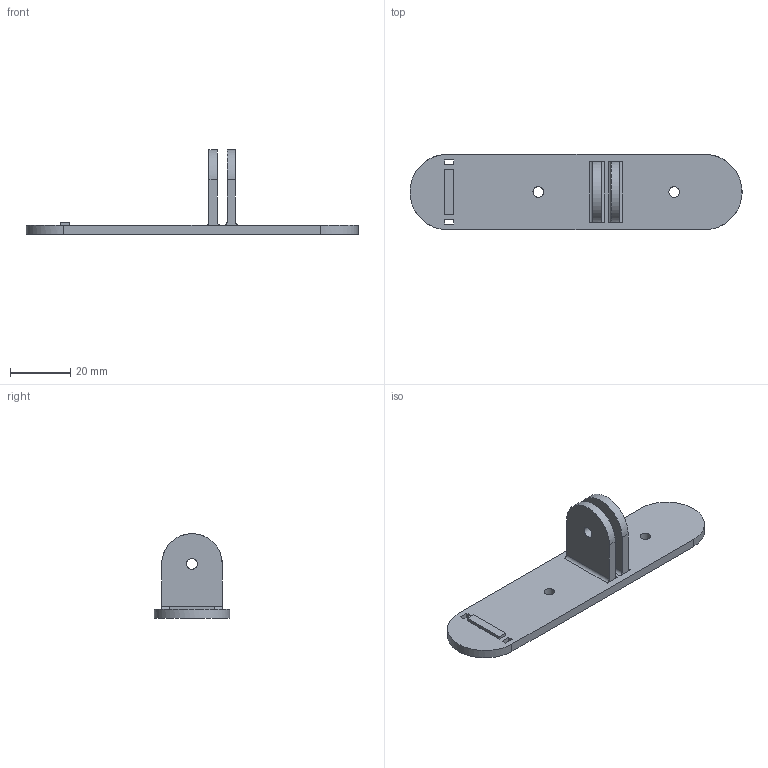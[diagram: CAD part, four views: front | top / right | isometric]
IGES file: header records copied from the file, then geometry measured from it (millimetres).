
Global section: file name: d435_mount_horizontal v6; native system: unknown; preprocessor: unknown; author: unknown; organization: unknown; date: 20200329.203105; units: millimetre
Bounding box: 109.97 x 25 x 27.98 mm (x, y, z)
Volume: 10333.4 mm3; surface area: 8290 mm2
Topology: 3 solids, 3 shells, 48 faces, 120 edges, 80 vertices
Faces by surface type: bspline 48
